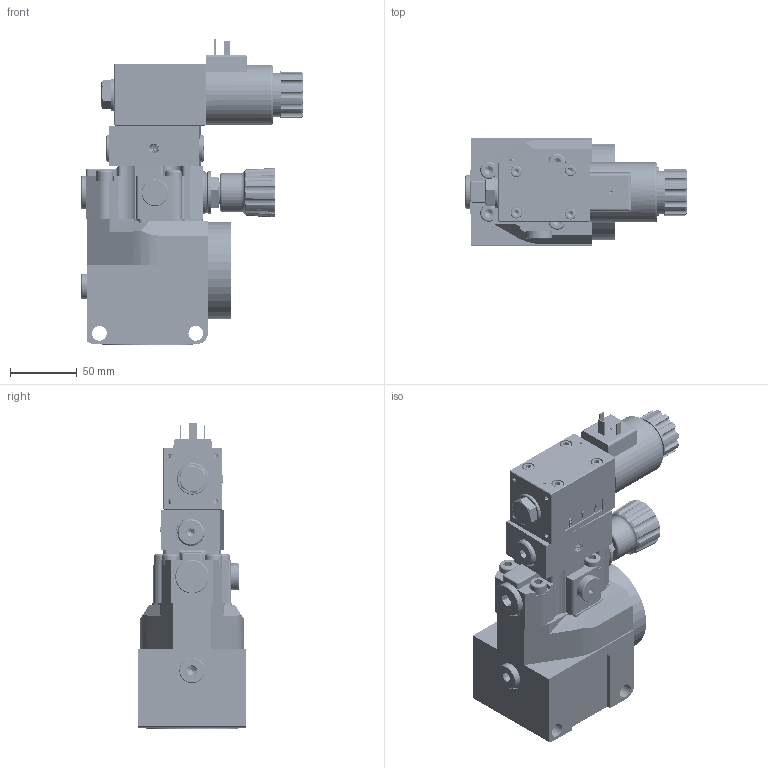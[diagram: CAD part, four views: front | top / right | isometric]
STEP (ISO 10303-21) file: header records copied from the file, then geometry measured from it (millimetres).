
FILE_DESCRIPTION(/* description */ (''),/* implementation_level */ '2;1');
FILE_NAME(/* name */ 'DBW10G-5XJ.stp',/* time_stamp */ '2024-09-27T14:26:43+08:00',/* author */ (''),/* organization */ (''),/* preprocessor_version */ 'ST-DEVELOPER v16.7',/* originating_system */ 'SIEMENS PLM Software NX 12.0',/* authorisation */ '');
FILE_SCHEMA (('AUTOMOTIVE_DESIGN { 1 0 10303 214 3 1 1 1 }'));
Products named in the file (1): DBW10...G-5XJ
Bounding box: 165.7 x 80 x 229 mm (x, y, z)
Volume: 760864.4 mm3; surface area: 263631.1 mm2
Topology: 78 solids, 82 shells, 2384 faces, 5934 edges, 3779 vertices
Faces by surface type: cylinder 1020, plane 758, cone 271, bspline 163, torus 114, extrusion 40, sphere 18
Full cylindrical faces by diameter (mm): 0.8 x1, 1 x1, 1.2 x3, 1.5 x4, 1.8 x6, 2 x7, 2.55 x20, 3 x11, 3.3 x1, 3.4 x63, 4 x4, 4.2 x10, 4.3 x48, 4.4 x2, 4.5 x1, 4.6 x2, 5 x177, 5.3 x4, 5.4 x5, 5.5 x2, 6 x9, 6.6 x2, 6.7 x48, 7 x4, 7.4 x1, 7.9 x1, 8 x15, 8.1 x1, 8.28 x5, 8.3 x1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
Entity records: 244634 total; most frequent: CARTESIAN_POINT 204380, DIRECTION 7675, ORIENTED_EDGE 7548, EDGE_CURVE 3774, AXIS2_PLACEMENT_3D 3183, EDGE_LOOP 2777, VERTEX_POINT 2700, ADVANCED_FACE 1943
